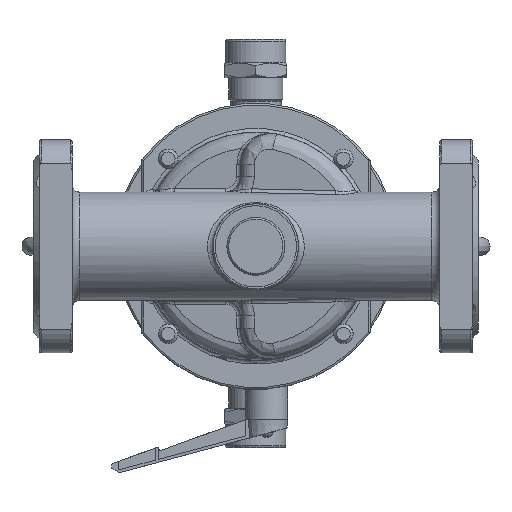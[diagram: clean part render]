
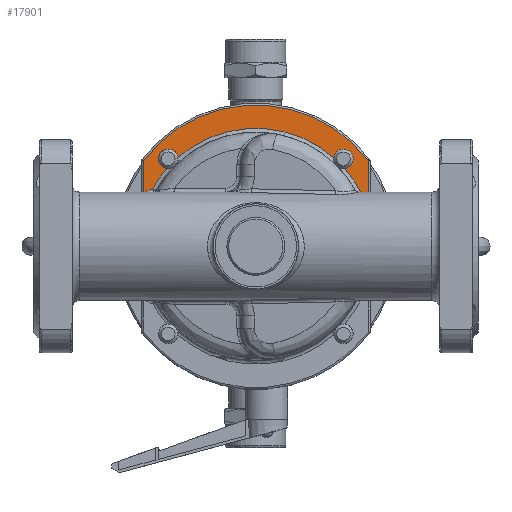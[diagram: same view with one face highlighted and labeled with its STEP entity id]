
A CAD part, front view. The second image highlights one B-rep face of the part: STEP entity #17901.
In plain terms, the highlighted planar face has unit normal (0, -1, 0).
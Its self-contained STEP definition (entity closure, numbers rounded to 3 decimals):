
#17901=ADVANCED_FACE('',(#40289),#40291,.F.);
#40289=FACE_BOUND('',#40290,.T.);
#40290=EDGE_LOOP('',(#72317,#72318,#72319,#72320,#72321,#72322,#72323,#72324,#72325));
#40291=PLANE('',#40292);
#40292=AXIS2_PLACEMENT_3D('',#40293,#40294,#40295);
#40293=CARTESIAN_POINT('',(0.,35.,0.));
#40294=DIRECTION('',(0.,1.,0.));
#40295=DIRECTION('',(1.,0.,0.));
#72317=ORIENTED_EDGE('',*,*,#83252,.F.);
#72318=ORIENTED_EDGE('',*,*,#83253,.T.);
#72319=ORIENTED_EDGE('',*,*,#83254,.F.);
#72320=ORIENTED_EDGE('',*,*,#83255,.T.);
#72321=ORIENTED_EDGE('',*,*,#83043,.F.);
#72322=ORIENTED_EDGE('',*,*,#83040,.F.);
#72323=ORIENTED_EDGE('',*,*,#83037,.F.);
#72324=ORIENTED_EDGE('',*,*,#83251,.F.);
#72325=ORIENTED_EDGE('',*,*,#83256,.T.);
#83037=EDGE_CURVE('',#95123,#95126,#95127,.T.);
#83040=EDGE_CURVE('',#95126,#95130,#95131,.T.);
#83043=EDGE_CURVE('',#95130,#95134,#95135,.T.);
#83251=EDGE_CURVE('',#95484,#95123,#95486,.F.);
#83252=EDGE_CURVE('',#95487,#95488,#95489,.F.);
#83253=EDGE_CURVE('',#95487,#95490,#95491,.T.);
#83254=EDGE_CURVE('',#95492,#95490,#95493,.F.);
#83255=EDGE_CURVE('',#95492,#95134,#95494,.T.);
#83256=EDGE_CURVE('',#95484,#95488,#95495,.T.);
#95123=VERTEX_POINT('',#126307);
#95126=VERTEX_POINT('',#126332);
#95127=LINE('',#126333,#126334);
#95130=VERTEX_POINT('',#126344);
#95131=CIRCLE('',#126345,73.);
#95134=VERTEX_POINT('',#126357);
#95135=LINE('',#126358,#126359);
#95484=VERTEX_POINT('',#128850);
#95486=CIRCLE('',#128855,10.);
#95487=VERTEX_POINT('',#128859);
#95488=VERTEX_POINT('',#128860);
#95489=CIRCLE('',#128861,5.);
#95490=VERTEX_POINT('',#128865);
#95491=CIRCLE('',#128866,61.);
#95492=VERTEX_POINT('',#128870);
#95493=CIRCLE('',#128871,5.);
#95494=CIRCLE('',#128875,61.);
#95495=CIRCLE('',#128879,61.);
#126307=CARTESIAN_POINT('',(-58.,35.,27.141));
#126332=CARTESIAN_POINT('',(-58.,35.,44.328));
#126333=CARTESIAN_POINT('',(-58.,35.,27.141));
#126334=VECTOR('',#126335,1.);
#126335=DIRECTION('',(0.,0.,1.));
#126344=CARTESIAN_POINT('',(58.,35.,44.328));
#126345=AXIS2_PLACEMENT_3D('',#126346,#126347,#126348);
#126346=CARTESIAN_POINT('',(0.,35.,0.));
#126347=DIRECTION('',(0.,1.,0.));
#126348=DIRECTION('',(-0.795,0.,0.607));
#126357=CARTESIAN_POINT('',(58.,35.,18.894));
#126358=CARTESIAN_POINT('',(58.,35.,44.328));
#126359=VECTOR('',#126360,1.);
#126360=DIRECTION('',(0.,0.,-1.));
#128850=CARTESIAN_POINT('',(-53.258,35.,29.742));
#128855=AXIS2_PLACEMENT_3D('',#128856,#128857,#128858);
#128856=CARTESIAN_POINT('',(-51.,35.,20.));
#128857=DIRECTION('',(0.,1.,0.));
#128858=DIRECTION('',(-0.7,0.,0.714));
#128859=CARTESIAN_POINT('',(-40.285,35.,45.805));
#128860=CARTESIAN_POINT('',(-45.805,35.,40.285));
#128861=AXIS2_PLACEMENT_3D('',#128862,#128863,#128864);
#128862=CARTESIAN_POINT('',(-45.255,35.,45.255));
#128863=DIRECTION('',(0.,1.,0.));
#128864=DIRECTION('',(-0.11,0.,-0.994));
#128865=CARTESIAN_POINT('',(40.285,35.,45.805));
#128866=AXIS2_PLACEMENT_3D('',#128867,#128868,#128869);
#128867=CARTESIAN_POINT('',(0.,35.,0.));
#128868=DIRECTION('',(0.,1.,0.));
#128869=DIRECTION('',(-0.66,0.,0.751));
#128870=CARTESIAN_POINT('',(45.805,35.,40.285));
#128871=AXIS2_PLACEMENT_3D('',#128872,#128873,#128874);
#128872=CARTESIAN_POINT('',(45.255,35.,45.255));
#128873=DIRECTION('',(0.,1.,0.));
#128874=DIRECTION('',(-0.994,0.,0.11));
#128875=AXIS2_PLACEMENT_3D('',#128876,#128877,#128878);
#128876=CARTESIAN_POINT('',(0.,35.,0.));
#128877=DIRECTION('',(0.,1.,0.));
#128878=DIRECTION('',(0.751,0.,0.66));
#128879=AXIS2_PLACEMENT_3D('',#128880,#128881,#128882);
#128880=CARTESIAN_POINT('',(0.,35.,0.));
#128881=DIRECTION('',(0.,1.,0.));
#128882=DIRECTION('',(-0.873,0.,0.488));
